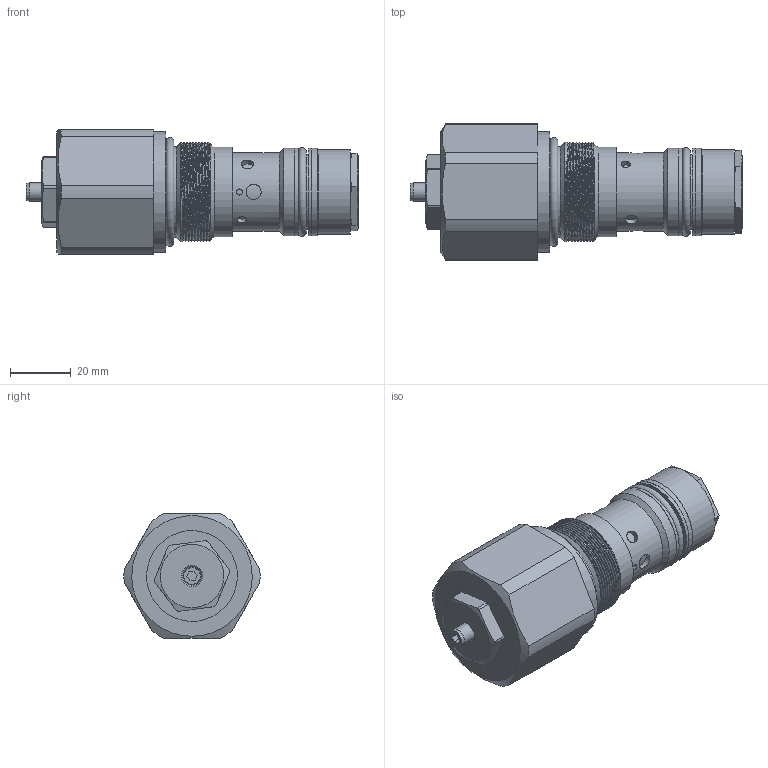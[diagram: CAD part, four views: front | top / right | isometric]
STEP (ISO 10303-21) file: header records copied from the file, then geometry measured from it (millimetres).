
FILE_DESCRIPTION(/* description */ (''),/* implementation_level */ '2;1');
FILE_NAME(/* name */ '2FRM10K-XJ插入式调速阀.prt.stp',/* time_stamp */ '2022-03-30T19:56:05+08:00',/* author */ (''),/* organization */ (''),/* preprocessor_version */ 'ST-DEVELOPER v16.7',/* originating_system */ 'SIEMENS PLM Software NX 12.0',/* authorisation */ '');
FILE_SCHEMA (('AUTOMOTIVE_DESIGN { 1 0 10303 214 3 1 1 1 }'));
Length unit declared in the file: millimetre
Products named in the file (1): 2FRM10K-XJ插入式调速阀
Bounding box: 109.7 x 44.98 x 41 mm (x, y, z)
Volume: 108168.2 mm3; surface area: 27797.9 mm2
Topology: 9 solids, 10 shells, 144 faces, 292 edges, 185 vertices
Faces by surface type: plane 56, cylinder 55, cone 22, torus 7, bspline 4
Full cylindrical faces by diameter (mm): 2 x2, 3 x2, 4 x2, 5 x2, 6 x2, 8.8 x1, 9 x1, 12 x1, 20.5 x1, 22 x1, 22.5 x2, 24 x1, 24.7 x1, 25 x2, 26 x1, 28 x1, 28.9 x2, 29 x2, 29.5 x1, 30 x2, 40 x1
Entity records: 8234 total; most frequent: CARTESIAN_POINT 5426, DIRECTION 546, ORIENTED_EDGE 474, AXIS2_PLACEMENT_3D 239, EDGE_CURVE 237, EDGE_LOOP 214, VERTEX_POINT 180, ADVANCED_FACE 144
